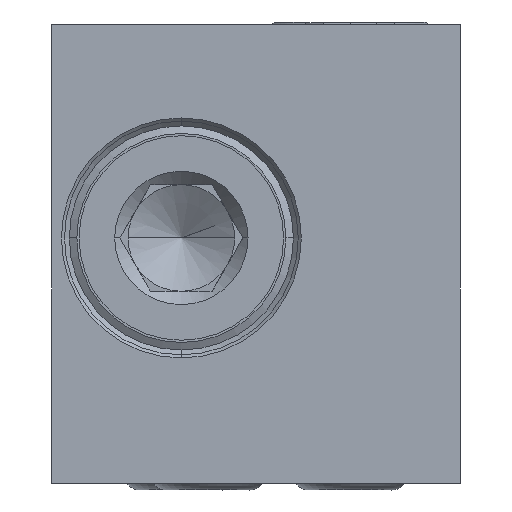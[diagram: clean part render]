
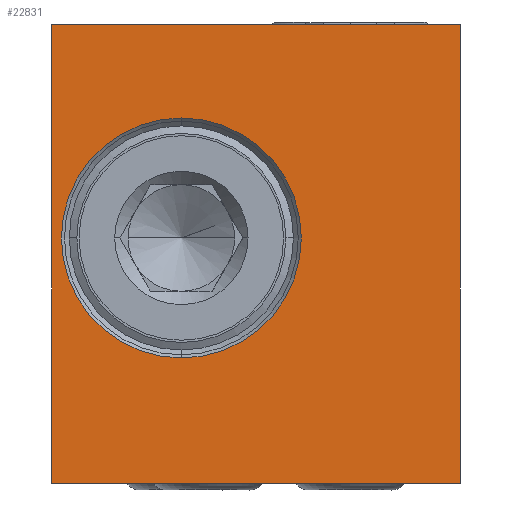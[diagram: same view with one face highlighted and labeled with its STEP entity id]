
A CAD part, left-side view. The second image highlights one B-rep face of the part: STEP entity #22831.
In plain terms, the highlighted planar face has unit normal (-1, 0, 0).
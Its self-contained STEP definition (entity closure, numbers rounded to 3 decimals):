
#4233=DIRECTION('',(0.,0.,1.));
#4234=VECTOR('',#4233,25.8);
#4235=CARTESIAN_POINT('',(-38.,11.5,-12.9));
#4236=LINE('',#4235,#4234);
#4237=DIRECTION('',(0.,-1.,0.));
#4238=VECTOR('',#4237,23.);
#4239=CARTESIAN_POINT('',(-38.,11.5,12.9));
#4240=LINE('',#4239,#4238);
#4241=DIRECTION('',(0.,0.,-1.));
#4242=VECTOR('',#4241,25.8);
#4243=CARTESIAN_POINT('',(-38.,-11.5,12.9));
#4244=LINE('',#4243,#4242);
#4245=DIRECTION('',(0.,1.,0.));
#4246=VECTOR('',#4245,23.);
#4247=CARTESIAN_POINT('',(-38.,-11.5,-12.9));
#4248=LINE('',#4247,#4246);
#4249=CARTESIAN_POINT('',(-38.,4.2,0.9));
#4250=DIRECTION('',(-1.,0.,0.));
#4251=DIRECTION('',(0.,0.,-1.));
#4252=AXIS2_PLACEMENT_3D('',#4249,#4250,#4251);
#4254=CARTESIAN_POINT('',(-38.,4.2,0.9));
#4255=DIRECTION('',(-1.,0.,0.));
#4256=DIRECTION('',(0.,0.,1.));
#4257=AXIS2_PLACEMENT_3D('',#4254,#4255,#4256);
#15607=CARTESIAN_POINT('',(-38.,11.5,12.9));
#15608=VERTEX_POINT('',#15607);
#15609=CARTESIAN_POINT('',(-38.,11.5,-12.9));
#15610=VERTEX_POINT('',#15609);
#15611=CARTESIAN_POINT('',(-38.,-11.5,12.9));
#15612=VERTEX_POINT('',#15611);
#15633=CARTESIAN_POINT('',(-38.,-11.5,-12.9));
#15634=VERTEX_POINT('',#15633);
#15679=CARTESIAN_POINT('',(-38.,4.2,-5.85));
#15680=CARTESIAN_POINT('',(-38.,4.2,7.65));
#15681=VERTEX_POINT('',#15679);
#15682=VERTEX_POINT('',#15680);
#22812=CARTESIAN_POINT('',(-38.,0.,0.));
#22813=DIRECTION('',(-1.,0.,0.));
#22814=DIRECTION('',(0.,-1.,0.));
#22815=AXIS2_PLACEMENT_3D('',#22812,#22813,#22814);
#22816=PLANE('',#22815);
#22817=ORIENTED_EDGE('',*,*,#22805,.T.);
#22818=ORIENTED_EDGE('',*,*,#20467,.T.);
#22820=ORIENTED_EDGE('',*,*,#22819,.T.);
#22822=ORIENTED_EDGE('',*,*,#22821,.T.);
#22823=EDGE_LOOP('',(#22817,#22818,#22820,#22822));
#22824=FACE_OUTER_BOUND('',#22823,.F.);
#22826=ORIENTED_EDGE('',*,*,#22825,.T.);
#22828=ORIENTED_EDGE('',*,*,#22827,.T.);
#22829=EDGE_LOOP('',(#22826,#22828));
#22830=FACE_BOUND('',#22829,.F.);
#22831=ADVANCED_FACE('',(#22824,#22830),#22816,.T.);
#4253=CIRCLE('',#4252,6.75);
#4258=CIRCLE('',#4257,6.75);
#20467=EDGE_CURVE('',#15608,#15612,#4240,.T.);
#22805=EDGE_CURVE('',#15610,#15608,#4236,.T.);
#22819=EDGE_CURVE('',#15612,#15634,#4244,.T.);
#22821=EDGE_CURVE('',#15634,#15610,#4248,.T.);
#22825=EDGE_CURVE('',#15681,#15682,#4253,.T.);
#22827=EDGE_CURVE('',#15682,#15681,#4258,.T.);
